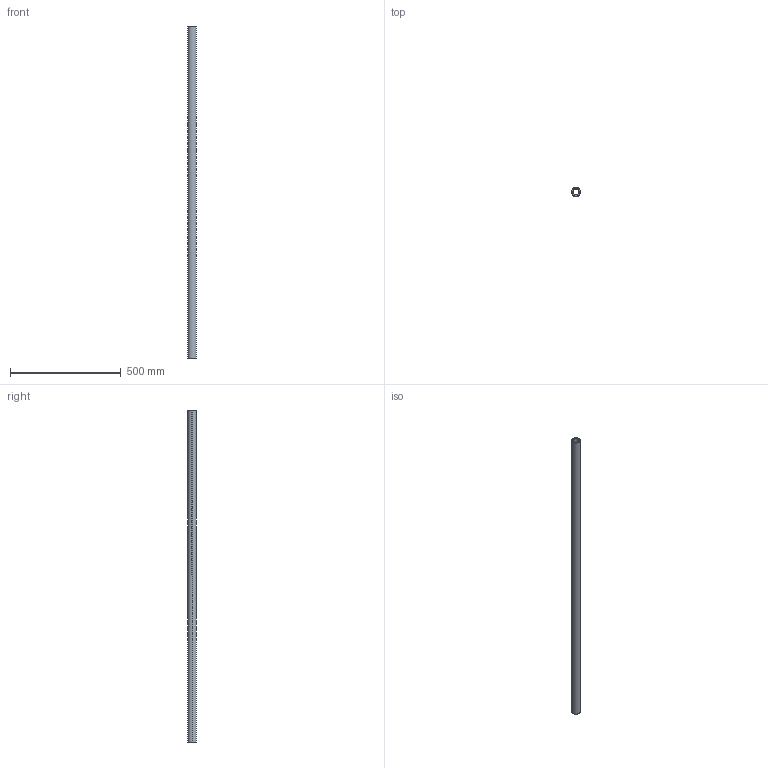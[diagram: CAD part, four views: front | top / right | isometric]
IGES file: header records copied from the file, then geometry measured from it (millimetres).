
Start section: SolidWorks IGES file using analytic representation for surfaces
Global section: file name: C:\Users\IanO\Desktop\L1771_v2\L1771.40_v2\L1771.40_v2_20230705_IGES\L1771.40-1500.igs; native system: SolidWorks 2019; preprocessor: SolidWorks 2019; author: IanO; date: 230705.160637; units: millimetre
Bounding box: 40 x 40 x 1500 mm (x, y, z)
Surface area: 321724.2 mm2 (no closed solid volume)
Topology: 0 solids, 0 shells, 6 faces, 272 edges, 272 vertices
Faces by surface type: revolution 4, bspline 2
